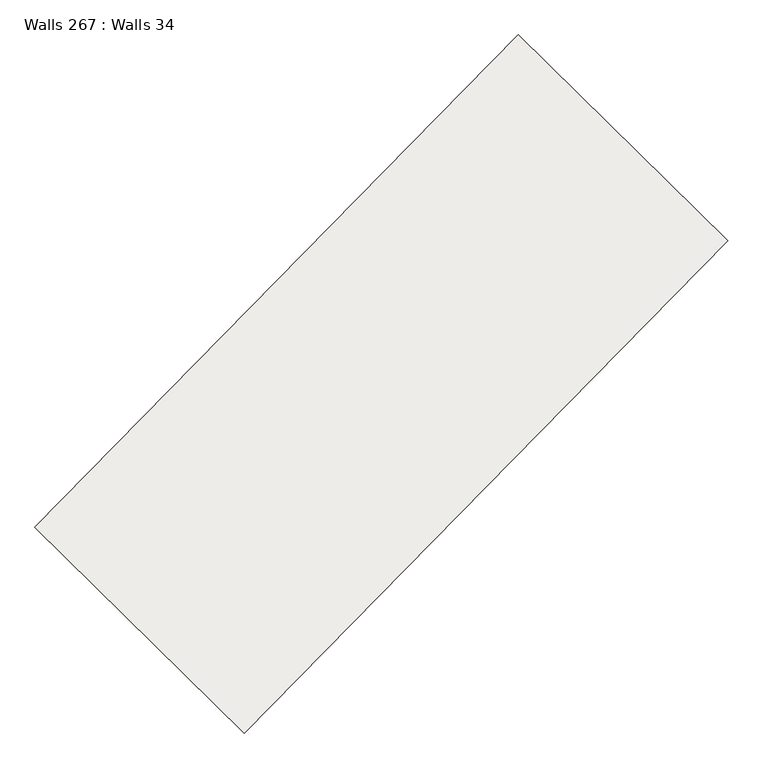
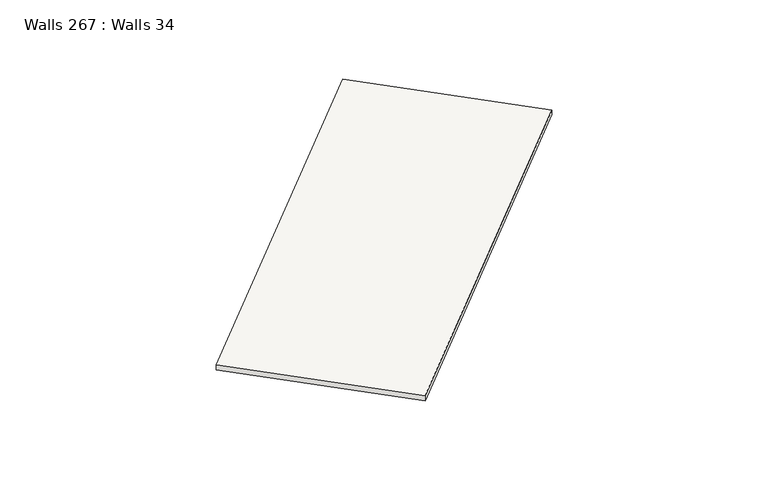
"""IFC4 building model written with IfcOpenShell, lengths in millimetres: slab geometry, Walls 267 : Walls 34."""

from ifc_helpers import new_model, si_unit, frame, origin, place, context, project, spatial, polyline, outline, extrude, source, transform, mapped, element, save


def walls_267_walls_34_9c0a9d9c(model_context):
    return source(origin(), model_context, "Body", "SweptSolid", [
        extrude(outline(polyline([(-50.0, 0.0), (50.0, 0.0), (-40.0, -8700.0000029), (-140.0, -8700.0000029), (-50.0, 0.0)])), frame((-176664.8488149, -339369.9554587, 635480.0), z_axis=(-0.7136987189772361, 0.7004528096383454, 0.0), x_axis=(0.0, 0.0, 1.0)), (0.0, 0.0, 1.0), 3700.0),
    ])


if __name__ == "__main__":
    model = new_model("IFC4")
    model_context = context("Model", 3, world=origin())
    ifc_project = project(units=[si_unit("LENGTHUNIT", "METRE", prefix="MILLI")], contexts=[model_context])
    site = spatial("IfcSite", under=ifc_project)
    building = spatial("IfcBuilding", under=site)
    placement = place(None, origin())
    walls_267_walls_34_shape = walls_267_walls_34_9c0a9d9c(model_context)
    element("IfcSlab", 1, ObjectType="Walls 267 : Walls 34", at=placement, inside=building, context=model_context, shape_type="MappedRepresentation", body=[
        mapped(walls_267_walls_34_shape, transform((0.0, 0.0, 0.0), x_axis=(1.0, 0.0, 0.0), y_axis=(0.0, 1.0, 0.0), z_axis=(0.0, 0.0, 1.0))),
    ])
    save(model, "model.ifc")
